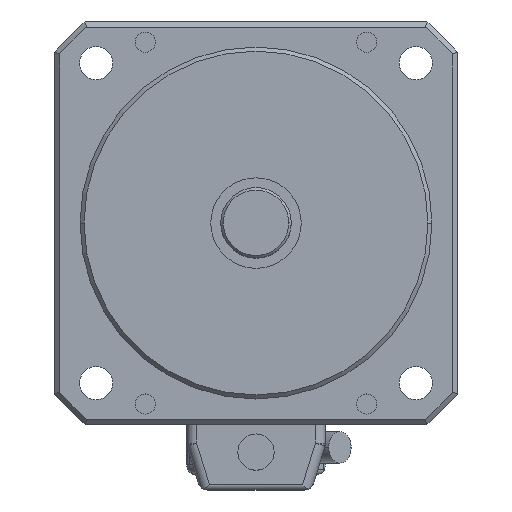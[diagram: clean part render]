
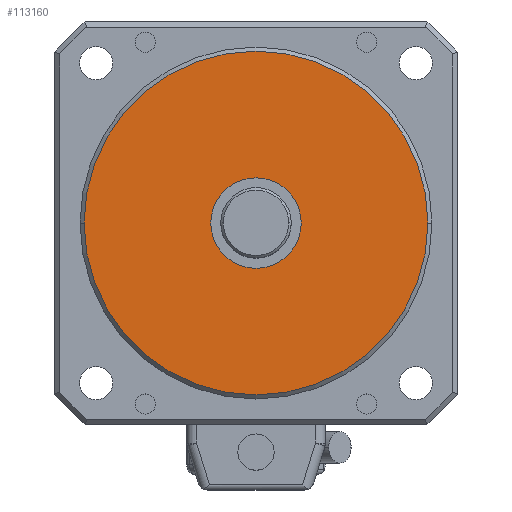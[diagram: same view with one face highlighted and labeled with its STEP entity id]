
A CAD part, top view. The second image highlights one B-rep face of the part: STEP entity #113160.
In plain terms, the highlighted planar face has unit normal (0, 0, 1) as drawn and (0, 0, -1) by its records, which use the part's own axes.
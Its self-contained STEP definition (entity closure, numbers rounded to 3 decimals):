
#96880=CARTESIAN_POINT('',(-34.2,0.,31.5));
#96890=VERTEX_POINT('',#96880);
#97070=CARTESIAN_POINT('',(34.2,0.,31.5));
#97080=VERTEX_POINT('',#97070);
#97110=CARTESIAN_POINT('',(0.,0.,31.5));
#97120=DIRECTION('',(0.,0.,-1.));
#97130=DIRECTION('',(-1.,0.,0.));
#97140=AXIS2_PLACEMENT_3D('',#97110,#97120,#97130);
#97150=CIRCLE('',#97140,34.2);
#97160=EDGE_CURVE('',#97080,#96890,#97150,.T.);
#100130=CARTESIAN_POINT('',(-9.,0.,31.5));
#100140=VERTEX_POINT('',#100130);
#100170=CARTESIAN_POINT('',(0.,0.,31.5));
#100180=DIRECTION('',(0.,0.,-1.));
#100190=DIRECTION('',(-1.,0.,0.));
#100200=AXIS2_PLACEMENT_3D('',#100170,#100180,#100190);
#100210=CIRCLE('',#100200,9.);
#100220=CARTESIAN_POINT('',(9.,0.,31.5));
#100230=VERTEX_POINT('',#100220);
#100240=EDGE_CURVE('',#100230,#100140,#100210,.T.);
#113010=CARTESIAN_POINT('',(-37.75,0.,31.5));
#113020=DIRECTION('',(0.,0.,-1.));
#113030=DIRECTION('',(-1.,0.,0.));
#113040=AXIS2_PLACEMENT_3D('',#113010,#113020,#113030);
#113050=PLANE('',#113040);
#113060=EDGE_CURVE('',#100140,#100230,#100210,.T.);
#113070=ORIENTED_EDGE('',*,*,#113060,.F.);
#113080=ORIENTED_EDGE('',*,*,#100240,.F.);
#113090=EDGE_LOOP('',(#113080,#113070));
#113100=FACE_BOUND('',#113090,.T.);
#113110=EDGE_CURVE('',#96890,#97080,#97150,.T.);
#113120=ORIENTED_EDGE('',*,*,#113110,.T.);
#113130=ORIENTED_EDGE('',*,*,#97160,.T.);
#113140=EDGE_LOOP('',(#113130,#113120));
#113150=FACE_OUTER_BOUND('',#113140,.T.);
#113160=ADVANCED_FACE('',(#113100,#113150),#113050,.T.);
